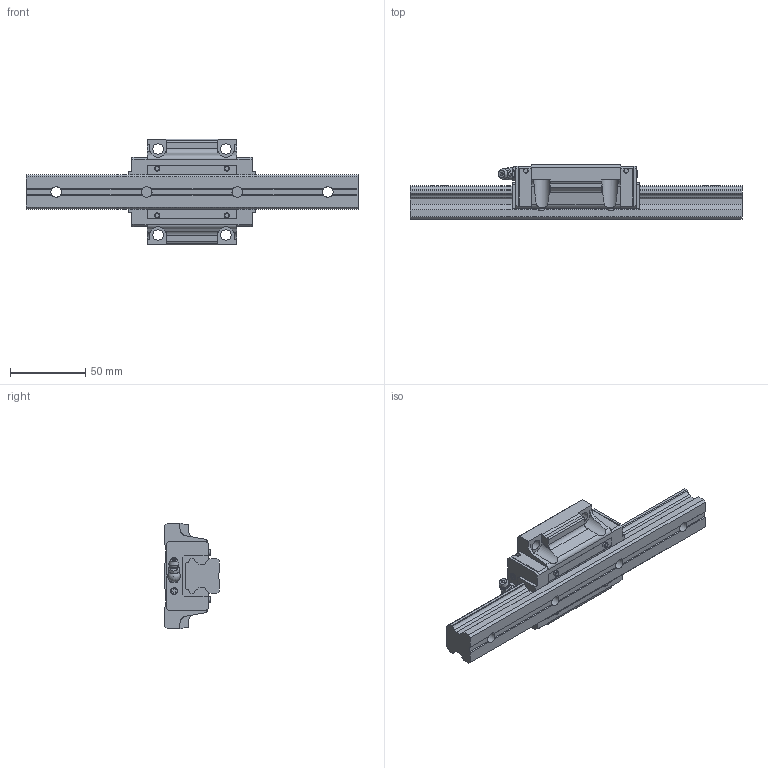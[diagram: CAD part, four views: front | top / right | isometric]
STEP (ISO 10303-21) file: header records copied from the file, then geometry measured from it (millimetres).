
FILE_DESCRIPTION(/* description */ ('STEP AP203'),/* implementation_level */ '2;1');
FILE_NAME(/* name */ 'HSR25M1B1SS-220L_G20_0_B-M6F_68-05_0_0_0',/* time_stamp */ '2024-05-23T06:14:17+02:00',/* author */ ('License CC BY-ND 4.0'),/* organization */ ('CADENAS'),/* preprocessor_version */ 'ST-DEVELOPER v19.3',/* originating_system */ 'PARTsolutions',/* authorisation */ ' ');
FILE_SCHEMA (('CONFIG_CONTROL_DESIGN'));
Length unit declared in the file: millimetre
Products named in the file (4): HSR25M1B1SS-220L_G20_0_B-M6F_68-05_0_0_0; HSR25M1B122020 Rail; HSR25M1BSSB-M6F Slider; hsr_ftht_B-M6F_grease_nipple_joint
Assembly tree (3 placements, depth 2):
  HSR25M1B1SS-220L_G20_0_B-M6F_68-05_0_0_0
    HSR25M1B122020 Rail
    HSR25M1BSSB-M6F Slider
    hsr_ftht_B-M6F_grease_nipple_joint
Bounding box: 220 x 36 x 70 mm (x, y, z)
Volume: 193464.8 mm3; surface area: 45391.8 mm2
Topology: 3 solids, 3 shells, 308 faces, 826 edges, 539 vertices
Faces by surface type: plane 226, cylinder 56, cone 13, torus 10, sphere 3
Full cylindrical faces by diameter (mm): 3 x4, 3.518 x4, 4.5 x4, 4.917 x2, 6 x1, 7 x8, 8 x1, 11 x4
Entity records: 9393 total; most frequent: CARTESIAN_POINT 1763, ORIENTED_EDGE 1524, DIRECTION 1524, EDGE_CURVE 762, LINE 552, VECTOR 552, VERTEX_POINT 525, AXIS2_PLACEMENT_3D 486
